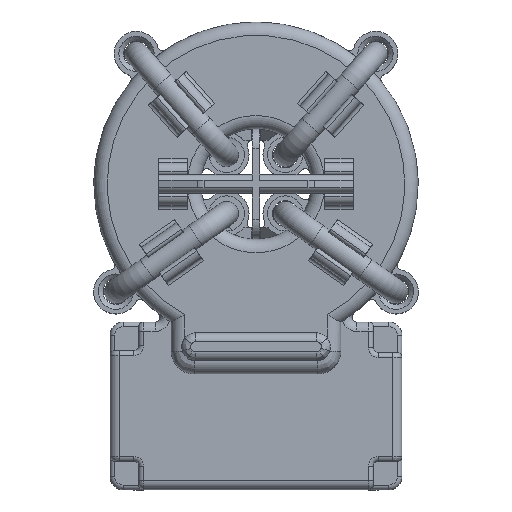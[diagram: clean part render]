
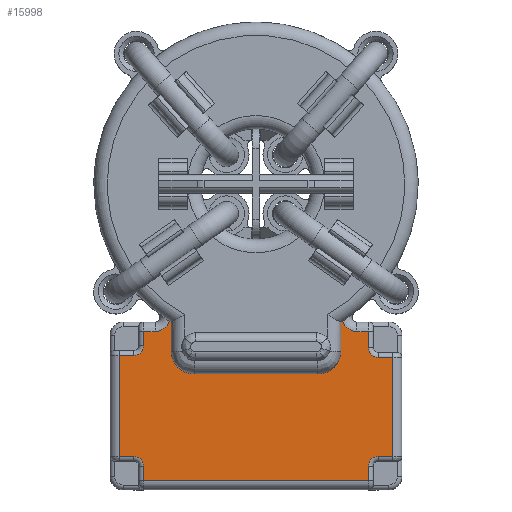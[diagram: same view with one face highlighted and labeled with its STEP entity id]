
A CAD part, top view. The second image highlights one B-rep face of the part: STEP entity #15998.
In plain terms, the highlighted planar face has unit normal (0, 0, 1).
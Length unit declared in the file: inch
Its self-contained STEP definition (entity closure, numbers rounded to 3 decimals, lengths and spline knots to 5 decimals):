
#822=CIRCLE('',#16921,0.09449);
#824=CIRCLE('',#16925,0.09449);
#958=CIRCLE('',#17133,0.05906);
#965=CIRCLE('',#17144,0.05906);
#966=CIRCLE('',#17145,0.66929);
#967=CIRCLE('',#17146,0.66929);
#968=CIRCLE('',#17147,0.03937);
#969=CIRCLE('',#17148,0.03937);
#970=CIRCLE('',#17149,0.03937);
#971=CIRCLE('',#17150,0.03937);
#1746=FACE_OUTER_BOUND('',#2623,.T.);
#2623=EDGE_LOOP('',(#11067,#11068,#11069,#11070,#11071,#11072,#11073,#11074,
#11075,#11076,#11077,#11078,#11079,#11080,#11081,#11082,#11083,#11084,#11085,
#11086,#11087,#11088,#11089,#11090,#11091,#11092));
#3644=LINE('',#23084,#4990);
#3648=LINE('',#23096,#4994);
#3652=LINE('',#23108,#4998);
#3755=LINE('',#24291,#5101);
#3758=LINE('',#24315,#5104);
#3759=LINE('',#24321,#5105);
#3761=LINE('',#24330,#5107);
#3763=LINE('',#24337,#5109);
#3764=LINE('',#24339,#5110);
#3765=LINE('',#24345,#5111);
#3766=LINE('',#24348,#5112);
#3767=LINE('',#24350,#5113);
#3768=LINE('',#24353,#5114);
#3769=LINE('',#24355,#5115);
#3770=LINE('',#24358,#5116);
#3771=LINE('',#24360,#5117);
#4990=VECTOR('',#18871,0.3937);
#4994=VECTOR('',#18883,0.3937);
#4998=VECTOR('',#18895,0.3937);
#5101=VECTOR('',#19406,0.3937);
#5104=VECTOR('',#19421,0.3937);
#5105=VECTOR('',#19426,0.3937);
#5107=VECTOR('',#19434,0.3937);
#5109=VECTOR('',#19440,0.3937);
#5110=VECTOR('',#19441,0.3937);
#5111=VECTOR('',#19448,0.3937);
#5112=VECTOR('',#19451,0.3937);
#5113=VECTOR('',#19452,0.3937);
#5114=VECTOR('',#19455,0.3937);
#5115=VECTOR('',#19456,0.3937);
#5116=VECTOR('',#19459,0.3937);
#5117=VECTOR('',#19460,0.3937);
#6336=VERTEX_POINT('',#23081);
#6337=VERTEX_POINT('',#23083);
#6339=VERTEX_POINT('',#23089);
#6341=VERTEX_POINT('',#23095);
#6343=VERTEX_POINT('',#23101);
#6345=VERTEX_POINT('',#23107);
#6523=VERTEX_POINT('',#24287);
#6525=VERTEX_POINT('',#24290);
#6526=VERTEX_POINT('',#24295);
#6528=VERTEX_POINT('',#24309);
#6530=VERTEX_POINT('',#24313);
#6531=VERTEX_POINT('',#24317);
#6533=VERTEX_POINT('',#24320);
#6535=VERTEX_POINT('',#24326);
#6537=VERTEX_POINT('',#24329);
#6539=VERTEX_POINT('',#24335);
#6540=VERTEX_POINT('',#24336);
#6541=VERTEX_POINT('',#24338);
#6542=VERTEX_POINT('',#24340);
#6543=VERTEX_POINT('',#24344);
#6544=VERTEX_POINT('',#24346);
#6545=VERTEX_POINT('',#24349);
#6546=VERTEX_POINT('',#24351);
#6547=VERTEX_POINT('',#24354);
#6548=VERTEX_POINT('',#24356);
#6549=VERTEX_POINT('',#24359);
#7986=EDGE_CURVE('',#6336,#6337,#3644,.T.);
#7989=EDGE_CURVE('',#6337,#6339,#822,.F.);
#7992=EDGE_CURVE('',#6339,#6341,#3648,.T.);
#7995=EDGE_CURVE('',#6341,#6343,#824,.F.);
#7998=EDGE_CURVE('',#6343,#6345,#3652,.T.);
#8260=EDGE_CURVE('',#6523,#6525,#3755,.T.);
#8263=EDGE_CURVE('',#6525,#6526,#958,.T.);
#8268=EDGE_CURVE('',#6530,#6528,#3758,.T.);
#8270=EDGE_CURVE('',#6531,#6533,#3759,.T.);
#8274=EDGE_CURVE('',#6535,#6537,#3761,.T.);
#8277=EDGE_CURVE('',#6539,#6540,#3763,.T.);
#8278=EDGE_CURVE('',#6541,#6539,#3764,.T.);
#8279=EDGE_CURVE('',#6542,#6541,#965,.T.);
#8280=EDGE_CURVE('',#6345,#6542,#966,.T.);
#8281=EDGE_CURVE('',#6526,#6336,#967,.T.);
#8282=EDGE_CURVE('',#6543,#6523,#3765,.T.);
#8283=EDGE_CURVE('',#6544,#6543,#968,.T.);
#8284=EDGE_CURVE('',#6528,#6544,#3766,.T.);
#8285=EDGE_CURVE('',#6545,#6530,#3767,.T.);
#8286=EDGE_CURVE('',#6546,#6545,#969,.T.);
#8287=EDGE_CURVE('',#6533,#6546,#3768,.T.);
#8288=EDGE_CURVE('',#6547,#6531,#3769,.T.);
#8289=EDGE_CURVE('',#6548,#6547,#970,.T.);
#8290=EDGE_CURVE('',#6537,#6548,#3770,.T.);
#8291=EDGE_CURVE('',#6549,#6535,#3771,.T.);
#8292=EDGE_CURVE('',#6540,#6549,#971,.T.);
#11067=ORIENTED_EDGE('',*,*,#8277,.F.);
#11068=ORIENTED_EDGE('',*,*,#8278,.F.);
#11069=ORIENTED_EDGE('',*,*,#8279,.F.);
#11070=ORIENTED_EDGE('',*,*,#8280,.F.);
#11071=ORIENTED_EDGE('',*,*,#7998,.F.);
#11072=ORIENTED_EDGE('',*,*,#7995,.F.);
#11073=ORIENTED_EDGE('',*,*,#7992,.F.);
#11074=ORIENTED_EDGE('',*,*,#7989,.F.);
#11075=ORIENTED_EDGE('',*,*,#7986,.F.);
#11076=ORIENTED_EDGE('',*,*,#8281,.F.);
#11077=ORIENTED_EDGE('',*,*,#8263,.F.);
#11078=ORIENTED_EDGE('',*,*,#8260,.F.);
#11079=ORIENTED_EDGE('',*,*,#8282,.F.);
#11080=ORIENTED_EDGE('',*,*,#8283,.F.);
#11081=ORIENTED_EDGE('',*,*,#8284,.F.);
#11082=ORIENTED_EDGE('',*,*,#8268,.F.);
#11083=ORIENTED_EDGE('',*,*,#8285,.F.);
#11084=ORIENTED_EDGE('',*,*,#8286,.F.);
#11085=ORIENTED_EDGE('',*,*,#8287,.F.);
#11086=ORIENTED_EDGE('',*,*,#8270,.F.);
#11087=ORIENTED_EDGE('',*,*,#8288,.F.);
#11088=ORIENTED_EDGE('',*,*,#8289,.F.);
#11089=ORIENTED_EDGE('',*,*,#8290,.F.);
#11090=ORIENTED_EDGE('',*,*,#8274,.F.);
#11091=ORIENTED_EDGE('',*,*,#8291,.F.);
#11092=ORIENTED_EDGE('',*,*,#8292,.F.);
#14581=PLANE('',#17143);
#15998=ADVANCED_FACE('',(#1746),#14581,.T.);
#16921=AXIS2_PLACEMENT_3D('',#23090,#18877,#18878);
#16925=AXIS2_PLACEMENT_3D('',#23102,#18889,#18890);
#17133=AXIS2_PLACEMENT_3D('',#24296,#19412,#19413);
#17143=AXIS2_PLACEMENT_3D('',#24334,#19438,#19439);
#17144=AXIS2_PLACEMENT_3D('',#24341,#19442,#19443);
#17145=AXIS2_PLACEMENT_3D('',#24342,#19444,#19445);
#17146=AXIS2_PLACEMENT_3D('',#24343,#19446,#19447);
#17147=AXIS2_PLACEMENT_3D('',#24347,#19449,#19450);
#17148=AXIS2_PLACEMENT_3D('',#24352,#19453,#19454);
#17149=AXIS2_PLACEMENT_3D('',#24357,#19457,#19458);
#17150=AXIS2_PLACEMENT_3D('',#24361,#19461,#19462);
#18871=DIRECTION('',(0.,-1.,0.));
#18877=DIRECTION('center_axis',(0.,0.,-1.));
#18878=DIRECTION('ref_axis',(-0.707,-0.707,0.));
#18883=DIRECTION('',(1.,0.,0.));
#18889=DIRECTION('center_axis',(0.,0.,-1.));
#18890=DIRECTION('ref_axis',(0.707,-0.707,0.));
#18895=DIRECTION('',(0.,1.,0.));
#19406=DIRECTION('',(1.,0.,0.));
#19412=DIRECTION('center_axis',(0.,0.,1.));
#19413=DIRECTION('ref_axis',(0.948,-0.318,0.));
#19421=DIRECTION('',(0.,1.,0.));
#19426=DIRECTION('',(-1.,0.,0.));
#19434=DIRECTION('',(0.,-1.,0.));
#19438=DIRECTION('center_axis',(0.,0.,1.));
#19439=DIRECTION('ref_axis',(1.,0.,0.));
#19440=DIRECTION('',(0.,-1.,0.));
#19441=DIRECTION('',(1.,0.,0.));
#19442=DIRECTION('center_axis',(0.,0.,1.));
#19443=DIRECTION('ref_axis',(-0.948,-0.318,0.));
#19444=DIRECTION('center_axis',(0.,0.,1.));
#19445=DIRECTION('ref_axis',(-1.,0.,0.));
#19446=DIRECTION('center_axis',(0.,0.,1.));
#19447=DIRECTION('ref_axis',(-1.,0.,0.));
#19448=DIRECTION('',(0.,1.,0.));
#19449=DIRECTION('center_axis',(0.,0.,1.));
#19450=DIRECTION('ref_axis',(0.707,-0.707,0.));
#19451=DIRECTION('',(1.,0.,0.));
#19452=DIRECTION('',(-1.,0.,0.));
#19453=DIRECTION('center_axis',(0.,0.,1.));
#19454=DIRECTION('ref_axis',(0.707,0.707,0.));
#19455=DIRECTION('',(0.,1.,0.));
#19456=DIRECTION('',(0.,-1.,0.));
#19457=DIRECTION('center_axis',(0.,0.,1.));
#19458=DIRECTION('ref_axis',(-0.707,0.707,0.));
#19459=DIRECTION('',(-1.,0.,0.));
#19460=DIRECTION('',(1.,0.,0.));
#19461=DIRECTION('center_axis',(0.,0.,1.));
#19462=DIRECTION('ref_axis',(-0.707,-0.707,0.));
#23081=CARTESIAN_POINT('',(-0.35039,-0.57024,0.3248));
#23083=CARTESIAN_POINT('',(-0.35039,-0.68898,0.3248));
#23084=CARTESIAN_POINT('',(-0.35039,-0.85228,0.3248));
#23089=CARTESIAN_POINT('',(-0.25591,-0.78346,0.3248));
#23090=CARTESIAN_POINT('Origin',(-0.25591,-0.68898,
0.3248));
#23095=CARTESIAN_POINT('',(0.25591,-0.78346,0.3248));
#23096=CARTESIAN_POINT('',(0.1752,-0.78346,0.3248));
#23101=CARTESIAN_POINT('',(0.35039,-0.68898,0.3248));
#23102=CARTESIAN_POINT('Origin',(0.25591,-0.68898,0.3248));
#23107=CARTESIAN_POINT('',(0.35039,-0.57024,0.3248));
#23108=CARTESIAN_POINT('',(0.35039,-0.74566,0.3248));
#24287=CARTESIAN_POINT('',(-0.46457,-0.60827,0.3248));
#24290=CARTESIAN_POINT('',(-0.416,-0.60827,0.3248));
#24291=CARTESIAN_POINT('',(-0.15748,-0.60827,0.3248));
#24295=CARTESIAN_POINT('',(-0.35905,-0.56483,0.3248));
#24296=CARTESIAN_POINT('Origin',(-0.416,-0.54921,
0.3248));
#24309=CARTESIAN_POINT('',(-0.56299,-0.70669,0.3248));
#24313=CARTESIAN_POINT('',(-0.56299,-1.12402,0.3248));
#24315=CARTESIAN_POINT('',(-0.56299,-0.74499,0.3248));
#24317=CARTESIAN_POINT('',(0.46457,-1.22244,0.3248));
#24320=CARTESIAN_POINT('',(-0.46457,-1.22244,0.3248));
#24321=CARTESIAN_POINT('',(-0.30118,-1.22244,0.3248));
#24326=CARTESIAN_POINT('',(0.56299,-0.71457,0.3248));
#24329=CARTESIAN_POINT('',(0.56299,-1.12402,0.3248));
#24330=CARTESIAN_POINT('',(0.56299,-1.09145,0.3248));
#24334=CARTESIAN_POINT('Origin',(0.,-0.92109,
0.3248));
#24335=CARTESIAN_POINT('',(0.46457,-0.60827,0.3248));
#24336=CARTESIAN_POINT('',(0.46457,-0.6752,0.3248));
#24337=CARTESIAN_POINT('',(0.46457,-0.80798,0.3248));
#24338=CARTESIAN_POINT('',(0.416,-0.60827,0.3248));
#24339=CARTESIAN_POINT('',(0.30118,-0.60827,0.3248));
#24340=CARTESIAN_POINT('',(0.35905,-0.56483,0.3248));
#24341=CARTESIAN_POINT('Origin',(0.416,-0.54921,0.3248));
#24342=CARTESIAN_POINT('Origin',(0.,0.,0.3248));
#24343=CARTESIAN_POINT('Origin',(0.,0.,0.3248));
#24344=CARTESIAN_POINT('',(-0.46457,-0.66732,0.3248));
#24345=CARTESIAN_POINT('',(-0.46457,-0.74499,0.3248));
#24346=CARTESIAN_POINT('',(-0.50394,-0.70669,0.3248));
#24347=CARTESIAN_POINT('Origin',(-0.50394,-0.66732,
0.3248));
#24348=CARTESIAN_POINT('',(-0.24213,-0.70669,0.3248));
#24349=CARTESIAN_POINT('',(-0.50394,-1.12402,0.3248));
#24350=CARTESIAN_POINT('',(-0.30118,-1.12402,0.3248));
#24351=CARTESIAN_POINT('',(-0.46457,-1.16339,0.3248));
#24352=CARTESIAN_POINT('Origin',(-0.50394,-1.16339,0.3248));
#24353=CARTESIAN_POINT('',(-0.46457,-1.03239,0.3248));
#24354=CARTESIAN_POINT('',(0.46457,-1.16339,0.3248));
#24355=CARTESIAN_POINT('',(0.46457,-1.09145,0.3248));
#24356=CARTESIAN_POINT('',(0.50394,-1.12402,0.3248));
#24357=CARTESIAN_POINT('Origin',(0.50394,-1.16339,0.3248));
#24358=CARTESIAN_POINT('',(0.24213,-1.12402,0.3248));
#24359=CARTESIAN_POINT('',(0.50394,-0.71457,0.3248));
#24360=CARTESIAN_POINT('',(0.30118,-0.71457,0.3248));
#24361=CARTESIAN_POINT('Origin',(0.50394,-0.6752,0.3248));
